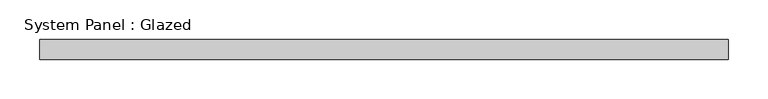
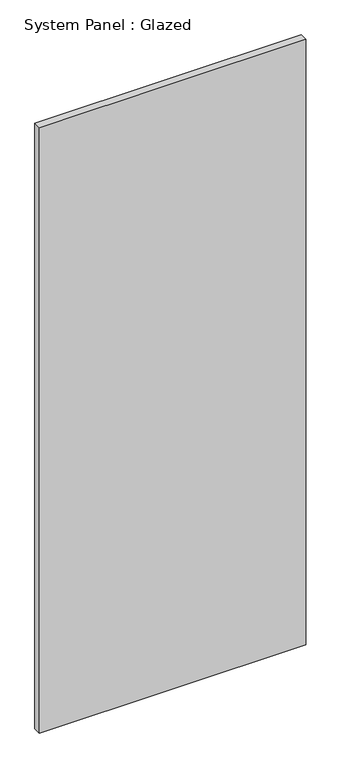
"""IFC4 building model written with IfcOpenShell, lengths in millimetres: plate geometry, System Panel : Glazed."""

from ifc_helpers import new_model, si_unit, origin, origin_with_axes, place, context, project, spatial, polyline, outline, extrude, source, transform, mapped, element, save


def system_panel_glazed_c5d29413(model_context):
    return source(origin(), model_context, "Body", "SweptSolid", [
        extrude(outline(polyline([(435.9649128, 19.05), (-435.9649128, 19.05), (-435.9649128, 44.45), (435.9649128, 44.45), (435.9649128, 19.05)])), origin_with_axes(), (0.0, 0.0, 1.0), 2095.5),
    ])


if __name__ == "__main__":
    model = new_model("IFC4")
    model_context = context("Model", 3, world=origin())
    ifc_project = project(units=[si_unit("LENGTHUNIT", "METRE", prefix="MILLI")], contexts=[model_context])
    site = spatial("IfcSite", under=ifc_project)
    building = spatial("IfcBuilding", under=site)
    placement = place(None, origin())
    system_panel_glazed_shape = system_panel_glazed_c5d29413(model_context)
    element("IfcPlate", 1, ObjectType="System Panel : Glazed", at=placement, inside=building, context=model_context, shape_type="MappedRepresentation", body=[
        mapped(system_panel_glazed_shape, transform((0.0, 0.0, 0.0), x_axis=(1.0, 0.0, 0.0), y_axis=(0.0, 1.0, 0.0), z_axis=(0.0, 0.0, 1.0))),
    ])
    save(model, "model.ifc")
